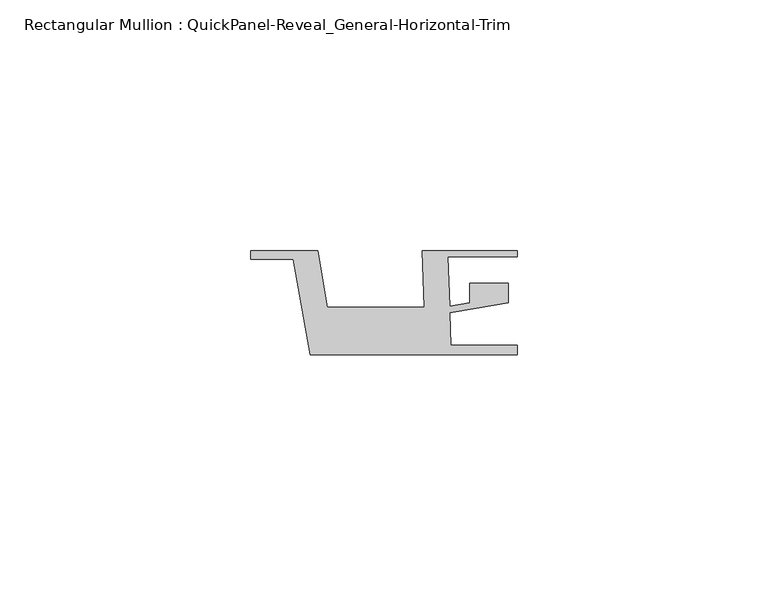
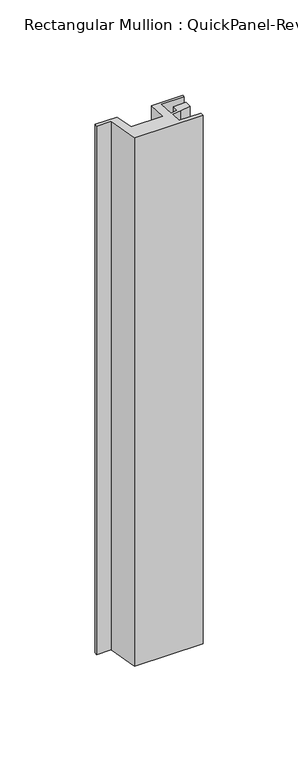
"""IFC4 building model written with IfcOpenShell, lengths in millimetres: member geometry, Rectangular Mullion : QuickPanel-Reveal_General-Horizontal-Trim."""

from ifc_helpers import new_model, si_unit, frame, origin, place, context, project, spatial, polyline, outline, extrude, source, transform, mapped, element, save


def rectangular_mullion_quickpanel_reveal_general_horizontal_a96b2838(model_context):
    return source(origin(), model_context, "Body", "SweptSolid", [
        extrude(outline(polyline([(28.3897075, -8.6293878), (-12.9047811, -8.6293878), (-16.27755, 10.4985348), (-24.8029806, 10.4985348), (-24.8029806, 12.1803727), (-11.4233548, 12.1803727), (-9.490275, 0.9043028), (9.8003757, 0.9043028), (9.4066067, 12.1803727), (28.3897075, 12.1803727), (28.3897075, 10.9303752), (14.533354, 10.9303752), (14.8772811, 1.0815922), (18.86285, 1.7648465), (18.86285, 5.6493034), (26.6076231, 5.6493034), (26.6076231, 1.8040245), (20.1722905, 0.7008023), (14.9220096, -0.1992641), (15.1487948, -6.6935423), (28.3897075, -6.6935423), (28.3897075, -8.6293878)])), frame((0.0, 0.0, -338.388579), z_axis=(0.0, 0.0, 1.0), x_axis=(1.0, 0.0, 0.0)), (0.0, 0.0, 1.0), 338.388579),
    ])


if __name__ == "__main__":
    model = new_model("IFC4")
    model_context = context("Model", 3, world=origin())
    ifc_project = project(units=[si_unit("LENGTHUNIT", "METRE", prefix="MILLI")], contexts=[model_context])
    site = spatial("IfcSite", under=ifc_project)
    building = spatial("IfcBuilding", under=site)
    placement = place(None, origin())
    rectangular_mullion_quickpanel_reveal_general_horizontal_shape = rectangular_mullion_quickpanel_reveal_general_horizontal_a96b2838(model_context)
    element("IfcMember", 1, ObjectType="Rectangular Mullion : QuickPanel-Reveal_General-Horizontal-Trim", at=placement, inside=building, context=model_context, shape_type="MappedRepresentation", body=[
        mapped(rectangular_mullion_quickpanel_reveal_general_horizontal_shape, transform((0.0, 0.0, 0.0), x_axis=(1.0, 0.0, 0.0), y_axis=(0.0, 1.0, 0.0), z_axis=(0.0, 0.0, 1.0))),
    ])
    save(model, "model.ifc")
